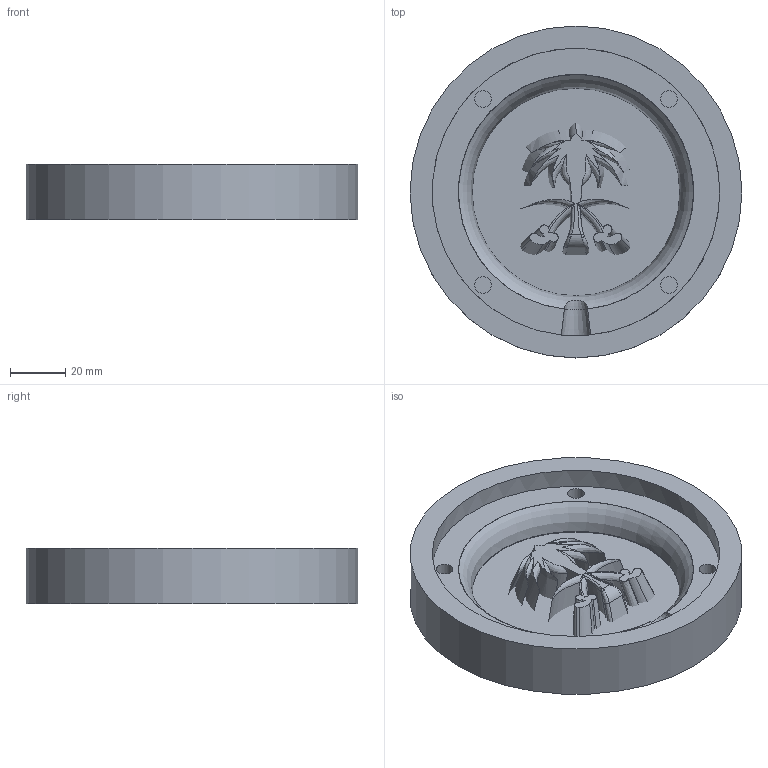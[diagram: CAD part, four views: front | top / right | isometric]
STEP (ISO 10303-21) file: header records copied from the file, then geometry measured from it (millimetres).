
FILE_DESCRIPTION( ( '' ), ' ' );
FILE_NAME( '/vol/tmp/translate-13585401775016557847/5d1b0217847f4e1753bfea6d.step', '2019-07-02T07:04:57', ( '' ), ( '' ), ' ', ' ', ' ' );
FILE_SCHEMA( ( 'AUTOMOTIVE_DESIGN { 1 0 10303 214 1 1 1 1 }' ) );
Length unit declared in the file: metre
Products named in the file (3): Part 3; Part 2; Part 1
Bounding box: 120 x 120 x 20 mm (x, y, z)
Volume: 117466 mm3; surface area: 48847.7 mm2
Topology: 2 solids, 8 shells, 122 faces, 400 edges, 291 vertices
Faces by surface type: bspline 91, plane 18, cylinder 10, cone 2, torus 1
Full cylindrical faces by diameter (mm): 6 x4, 75 x1, 85 x2, 104 x1, 120 x1
Entity records: 14092 total; most frequent: CARTESIAN_POINT 10601, ORIENTED_EDGE 746, EDGE_CURVE 373, B_SPLINE_CURVE_WITH_KNOTS 327, VERTEX_POINT 271, EDGE_LOOP 138, DIRECTION 136, FACE_OUTER_BOUND 132
